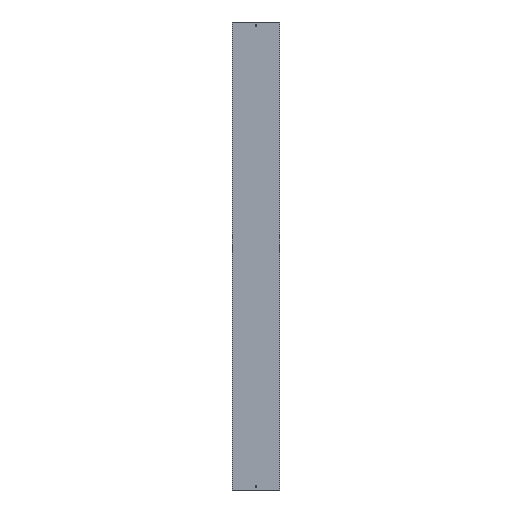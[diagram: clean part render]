
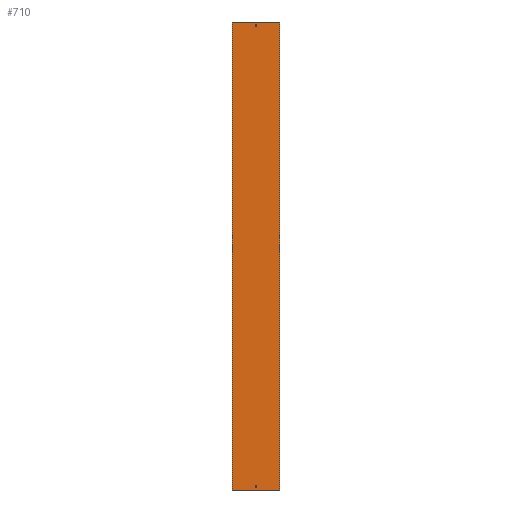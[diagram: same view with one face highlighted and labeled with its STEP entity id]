
A CAD part, front view. The second image highlights one B-rep face of the part: STEP entity #710.
In plain terms, the highlighted planar face has unit normal (0, -1, 0).
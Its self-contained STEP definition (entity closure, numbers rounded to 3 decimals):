
#1 = ORIENTED_EDGE ( 'NONE', *, *, #426, .F. ) ;
#10 = LINE ( 'NONE', #453, #945 ) ;
#26 = CARTESIAN_POINT ( 'NONE',  ( -3.25, 0., 979. ) ) ;
#31 = EDGE_LOOP ( 'NONE', ( #284, #140, #1072, #622 ) ) ;
#43 = VECTOR ( 'NONE', #896, 1000. ) ;
#55 = LINE ( 'NONE', #572, #231 ) ;
#61 = DIRECTION ( 'NONE',  ( 0., 0., -1. ) ) ;
#78 = DIRECTION ( 'NONE',  ( 0., 1., 0. ) ) ;
#95 = VECTOR ( 'NONE', #479, 1000. ) ;
#96 = VECTOR ( 'NONE', #855, 1000. ) ;
#106 = EDGE_CURVE ( 'NONE', #672, #877, #314, .T. ) ;
#140 = ORIENTED_EDGE ( 'NONE', *, *, #106, .T. ) ;
#176 = DIRECTION ( 'NONE',  ( 0., 0., -1. ) ) ;
#180 = EDGE_LOOP ( 'NONE', ( #451, #1, #898, #1090 ) ) ;
#190 = EDGE_CURVE ( 'NONE', #853, #316, #1016, .T. ) ;
#196 = CARTESIAN_POINT ( 'NONE',  ( -3.25, 0., 979. ) ) ;
#198 = ORIENTED_EDGE ( 'NONE', *, *, #800, .F. ) ;
#202 = VERTEX_POINT ( 'NONE', #321 ) ;
#209 = VECTOR ( 'NONE', #1095, 1000. ) ;
#218 = VERTEX_POINT ( 'NONE', #520 ) ;
#222 = EDGE_CURVE ( 'NONE', #218, #964, #339, .T. ) ;
#227 = CARTESIAN_POINT ( 'NONE',  ( -3.25, 0., 988. ) ) ;
#231 = VECTOR ( 'NONE', #565, 1000. ) ;
#242 = CARTESIAN_POINT ( 'NONE',  ( -3.25, 0., 988. ) ) ;
#264 = LINE ( 'NONE', #196, #371 ) ;
#284 = ORIENTED_EDGE ( 'NONE', *, *, #692, .T. ) ;
#287 = VERTEX_POINT ( 'NONE', #592 ) ;
#298 = AXIS2_PLACEMENT_3D ( 'NONE', #867, #78, #430 ) ;
#314 = LINE ( 'NONE', #558, #95 ) ;
#316 = VERTEX_POINT ( 'NONE', #242 ) ;
#320 = CARTESIAN_POINT ( 'NONE',  ( 3.25, 0., 988. ) ) ;
#321 = CARTESIAN_POINT ( 'NONE',  ( 3.25, 0., 979. ) ) ;
#326 = FACE_OUTER_BOUND ( 'NONE', #367, .T. ) ;
#339 = LINE ( 'NONE', #954, #735 ) ;
#340 = PLANE ( 'NONE',  #298 ) ;
#359 = LINE ( 'NONE', #452, #469 ) ;
#367 = EDGE_LOOP ( 'NONE', ( #739, #637, #198, #443 ) ) ;
#371 = VECTOR ( 'NONE', #801, 1000. ) ;
#372 = EDGE_CURVE ( 'NONE', #822, #202, #264, .T. ) ;
#423 = DIRECTION ( 'NONE',  ( 0., 0., 1. ) ) ;
#426 = EDGE_CURVE ( 'NONE', #316, #822, #1068, .T. ) ;
#427 = EDGE_CURVE ( 'NONE', #964, #432, #10, .T. ) ;
#430 = DIRECTION ( 'NONE',  ( -1., 0., 0. ) ) ;
#432 = VERTEX_POINT ( 'NONE', #632 ) ;
#436 = CARTESIAN_POINT ( 'NONE',  ( -3.25, 0., -988. ) ) ;
#443 = ORIENTED_EDGE ( 'NONE', *, *, #222, .T. ) ;
#451 = ORIENTED_EDGE ( 'NONE', *, *, #372, .F. ) ;
#452 = CARTESIAN_POINT ( 'NONE',  ( 3.25, 0., 988. ) ) ;
#453 = CARTESIAN_POINT ( 'NONE',  ( -102., 0., -1000. ) ) ;
#469 = VECTOR ( 'NONE', #533, 1000. ) ;
#479 = DIRECTION ( 'NONE',  ( 1., 0., 0. ) ) ;
#505 = CARTESIAN_POINT ( 'NONE',  ( -3.25, 0., -979. ) ) ;
#515 = LINE ( 'NONE', #436, #1065 ) ;
#520 = CARTESIAN_POINT ( 'NONE',  ( -102., 0., 1000. ) ) ;
#533 = DIRECTION ( 'NONE',  ( 0., 0., 1. ) ) ;
#540 = CARTESIAN_POINT ( 'NONE',  ( -3.25, 0., 988. ) ) ;
#558 = CARTESIAN_POINT ( 'NONE',  ( -3.25, 0., -979. ) ) ;
#561 = VERTEX_POINT ( 'NONE', #651 ) ;
#565 = DIRECTION ( 'NONE',  ( 0., 0., -1. ) ) ;
#572 = CARTESIAN_POINT ( 'NONE',  ( 102., 0., 1000. ) ) ;
#586 = LINE ( 'NONE', #1024, #96 ) ;
#592 = CARTESIAN_POINT ( 'NONE',  ( -3.25, 0., -988. ) ) ;
#622 = ORIENTED_EDGE ( 'NONE', *, *, #988, .T. ) ;
#632 = CARTESIAN_POINT ( 'NONE',  ( 102., 0., -1000. ) ) ;
#637 = ORIENTED_EDGE ( 'NONE', *, *, #926, .F. ) ;
#651 = CARTESIAN_POINT ( 'NONE',  ( 3.25, 0., -988. ) ) ;
#669 = CARTESIAN_POINT ( 'NONE',  ( 3.25, 0., -979. ) ) ;
#672 = VERTEX_POINT ( 'NONE', #505 ) ;
#675 = FACE_BOUND ( 'NONE', #180, .T. ) ;
#684 = VECTOR ( 'NONE', #885, 1000. ) ;
#692 = EDGE_CURVE ( 'NONE', #287, #672, #515, .T. ) ;
#710 = ADVANCED_FACE ( 'NONE', ( #326, #675, #1037 ), #340, .F. ) ;
#735 = VECTOR ( 'NONE', #176, 1000. ) ;
#739 = ORIENTED_EDGE ( 'NONE', *, *, #427, .T. ) ;
#764 = CARTESIAN_POINT ( 'NONE',  ( -102., 0., -1000. ) ) ;
#800 = EDGE_CURVE ( 'NONE', #218, #927, #815, .T. ) ;
#801 = DIRECTION ( 'NONE',  ( 1., 0., 0. ) ) ;
#815 = LINE ( 'NONE', #1056, #684 ) ;
#822 = VERTEX_POINT ( 'NONE', #26 ) ;
#853 = VERTEX_POINT ( 'NONE', #320 ) ;
#855 = DIRECTION ( 'NONE',  ( -1., 0., 0. ) ) ;
#867 = CARTESIAN_POINT ( 'NONE',  ( -102., 0., 1000. ) ) ;
#877 = VERTEX_POINT ( 'NONE', #669 ) ;
#885 = DIRECTION ( 'NONE',  ( 1., 0., 0. ) ) ;
#896 = DIRECTION ( 'NONE',  ( 0., 0., -1. ) ) ;
#898 = ORIENTED_EDGE ( 'NONE', *, *, #190, .F. ) ;
#926 = EDGE_CURVE ( 'NONE', #927, #432, #55, .T. ) ;
#927 = VERTEX_POINT ( 'NONE', #1106 ) ;
#943 = LINE ( 'NONE', #1118, #1003 ) ;
#945 = VECTOR ( 'NONE', #1060, 1000. ) ;
#954 = CARTESIAN_POINT ( 'NONE',  ( -102., 0., 1000. ) ) ;
#956 = EDGE_CURVE ( 'NONE', #877, #561, #943, .T. ) ;
#964 = VERTEX_POINT ( 'NONE', #764 ) ;
#988 = EDGE_CURVE ( 'NONE', #561, #287, #586, .T. ) ;
#1003 = VECTOR ( 'NONE', #61, 1000. ) ;
#1016 = LINE ( 'NONE', #227, #209 ) ;
#1024 = CARTESIAN_POINT ( 'NONE',  ( -3.25, 0., -988. ) ) ;
#1037 = FACE_BOUND ( 'NONE', #31, .T. ) ;
#1056 = CARTESIAN_POINT ( 'NONE',  ( -102., 0., 1000. ) ) ;
#1060 = DIRECTION ( 'NONE',  ( 1., 0., 0. ) ) ;
#1065 = VECTOR ( 'NONE', #423, 1000. ) ;
#1068 = LINE ( 'NONE', #540, #43 ) ;
#1072 = ORIENTED_EDGE ( 'NONE', *, *, #956, .T. ) ;
#1077 = EDGE_CURVE ( 'NONE', #202, #853, #359, .T. ) ;
#1090 = ORIENTED_EDGE ( 'NONE', *, *, #1077, .F. ) ;
#1095 = DIRECTION ( 'NONE',  ( -1., 0., 0. ) ) ;
#1106 = CARTESIAN_POINT ( 'NONE',  ( 102., 0., 1000. ) ) ;
#1118 = CARTESIAN_POINT ( 'NONE',  ( 3.25, 0., -988. ) ) ;
